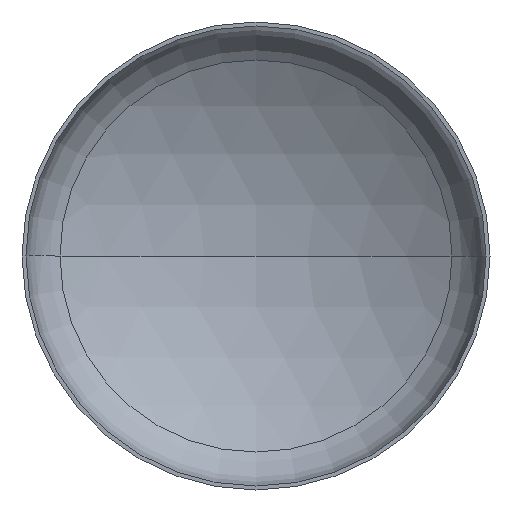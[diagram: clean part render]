
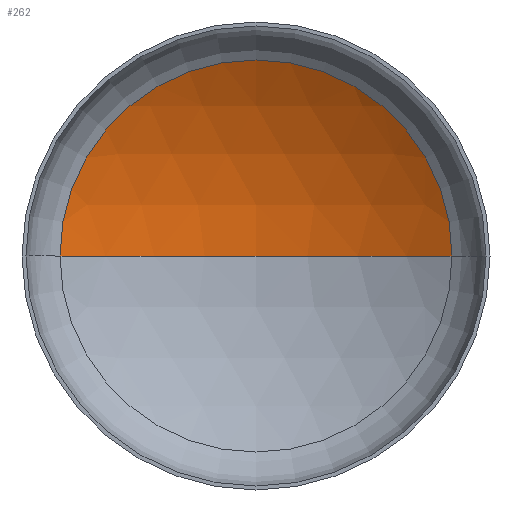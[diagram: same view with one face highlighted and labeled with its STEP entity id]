
A CAD part, front view. The second image highlights one B-rep face of the part: STEP entity #262.
In plain terms, the highlighted spherical face has radius 1520 mm.
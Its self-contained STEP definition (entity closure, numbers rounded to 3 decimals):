
#8 = CARTESIAN_POINT ( 'NONE',  ( 0., 302.074, 0. ) ) ;
#25 = EDGE_LOOP ( 'NONE', ( #34, #130, #97 ) ) ;
#30 = AXIS2_PLACEMENT_3D ( 'NONE', #387, #81, #147 ) ;
#32 = DIRECTION ( 'NONE',  ( 0., 0., -1. ) ) ;
#34 = ORIENTED_EDGE ( 'NONE', *, *, #161, .F. ) ;
#41 = VERTEX_POINT ( 'NONE', #242 ) ;
#55 = AXIS2_PLACEMENT_3D ( 'NONE', #223, #220, #221 ) ;
#57 = AXIS2_PLACEMENT_3D ( 'NONE', #269, #32, #196 ) ;
#58 = SPHERICAL_SURFACE ( 'NONE', #30, 1520. ) ;
#59 = AXIS2_PLACEMENT_3D ( 'NONE', #8, #289, #137 ) ;
#63 = VERTEX_POINT ( 'NONE', #238 ) ;
#81 = DIRECTION ( 'NONE',  ( 0., 0., -1. ) ) ;
#97 = ORIENTED_EDGE ( 'NONE', *, *, #149, .T. ) ;
#126 = VERTEX_POINT ( 'NONE', #309 ) ;
#130 = ORIENTED_EDGE ( 'NONE', *, *, #156, .T. ) ;
#137 = DIRECTION ( 'NONE',  ( 1., 0., 0. ) ) ;
#147 = DIRECTION ( 'NONE',  ( -1., 0., 0. ) ) ;
#149 = EDGE_CURVE ( 'NONE', #63, #126, #278, .T. ) ;
#156 = EDGE_CURVE ( 'NONE', #41, #63, #386, .T. ) ;
#161 = EDGE_CURVE ( 'NONE', #41, #126, #328, .T. ) ;
#196 = DIRECTION ( 'NONE',  ( -1., 0., 0. ) ) ;
#220 = DIRECTION ( 'NONE',  ( 0., 0., 1. ) ) ;
#221 = DIRECTION ( 'NONE',  ( 1., 0., 0. ) ) ;
#223 = CARTESIAN_POINT ( 'NONE',  ( 0., -992.933, 0. ) ) ;
#238 = CARTESIAN_POINT ( 'NONE',  ( 795.837, 302.074, 0. ) ) ;
#242 = CARTESIAN_POINT ( 'NONE',  ( 0., 527.067, 0. ) ) ;
#260 = FACE_OUTER_BOUND ( 'NONE', #25, .T. ) ;
#262 = ADVANCED_FACE ( 'NONE', ( #260 ), #58, .F. ) ;
#269 = CARTESIAN_POINT ( 'NONE',  ( 0., -992.933, 0. ) ) ;
#278 = CIRCLE ( 'NONE', #59, 795.837 ) ;
#289 = DIRECTION ( 'NONE',  ( 0., -1., 0. ) ) ;
#309 = CARTESIAN_POINT ( 'NONE',  ( -795.837, 302.074, 0. ) ) ;
#328 = CIRCLE ( 'NONE', #55, 1520. ) ;
#386 = CIRCLE ( 'NONE', #57, 1520. ) ;
#387 = CARTESIAN_POINT ( 'NONE',  ( 0., -992.933, 0. ) ) ;
